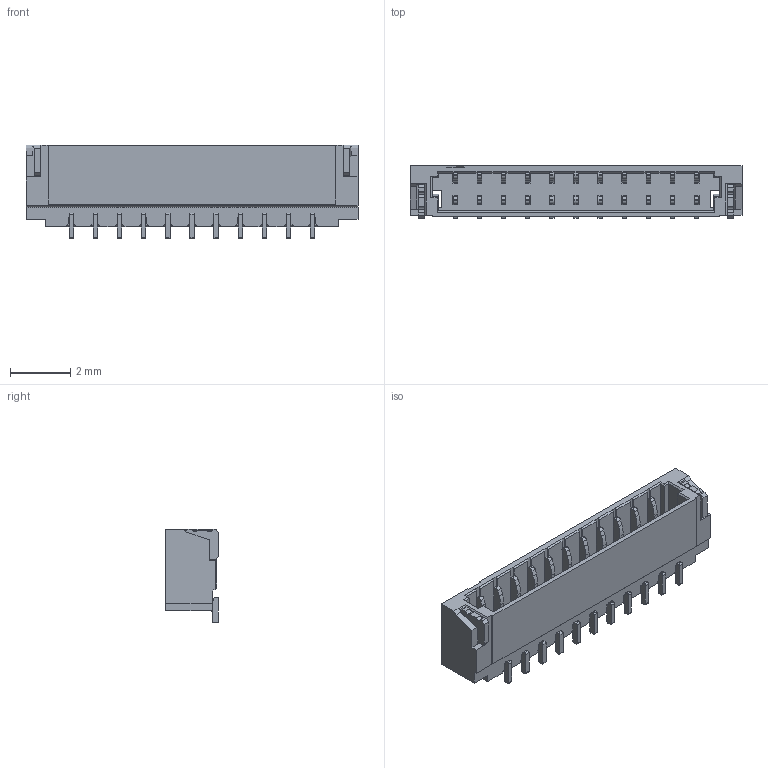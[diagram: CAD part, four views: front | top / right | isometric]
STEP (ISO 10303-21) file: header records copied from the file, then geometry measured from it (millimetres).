
FILE_DESCRIPTION(('OneSpaceDesigner STEP Export'),'2;1');
FILE_NAME('CM-48300-11x4.stp','2009-12-09T 9:41:18',(''),(''),'OneSpace Designer STEP processor for AP214 (Solid Model)','OneSpace Designer 13.01 05-Feb-2005 (C) CoCreate Software GmbH','');
FILE_SCHEMA(('AUTOMOTIVE_DESIGN { 1 0 10303 214 1 1 1 1 }'));
Length unit declared in the file: millimetre
Products named in the file (2): 48300-11x4
Assembly tree (1 placements, depth 2):
  48300-11x4
    48300-11x4
Bounding box: 11 x 1.75 x 3.1 mm (x, y, z)
Volume: 28.5 mm3; surface area: 211.7 mm2
Topology: 1 solids, 1 shells, 972 faces, 3095 edges, 2004 vertices
Faces by surface type: plane 640, cylinder 332
Entity records: 33301 total; most frequent: ORIENTED_EDGE 6190, CARTESIAN_POINT 5860, DIRECTION 5391, EDGE_CURVE 3095, VECTOR 2321, LINE 2321, VERTEX_POINT 2004, AXIS2_PLACEMENT_3D 1535
